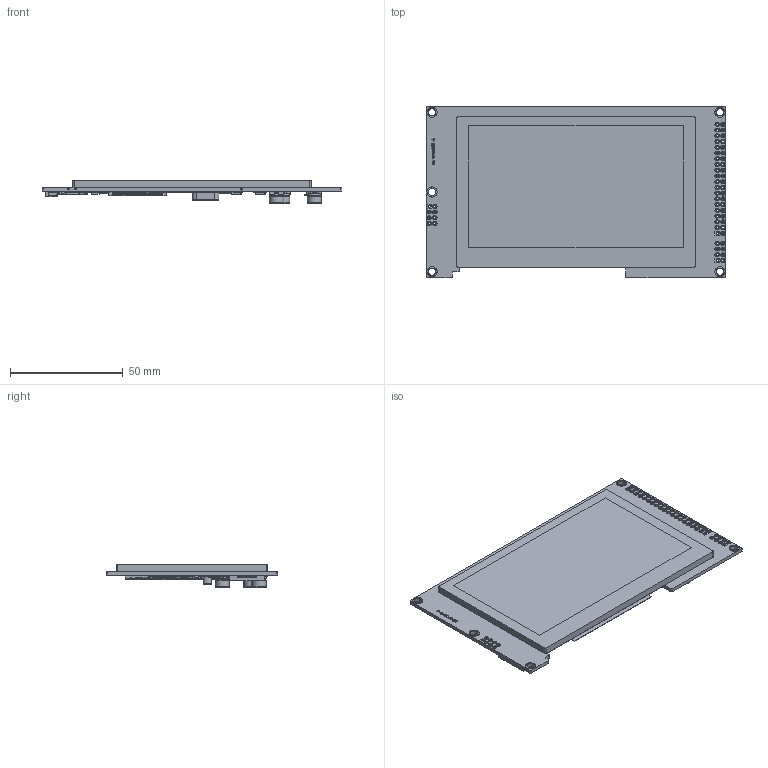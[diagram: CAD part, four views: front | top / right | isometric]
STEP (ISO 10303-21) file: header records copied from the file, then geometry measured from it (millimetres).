
FILE_DESCRIPTION(('HOOPS Exchange Step'),'2;1');
FILE_NAME('\\Server-1\e\公共文件夹\7.产品资料库\彩色-TFT\4.3寸\ER-TFTM043-4\3D\ER-TFTM043-4_3D.step','2021-01-28T09:47:05+08:00',('Administrator'),('Unknown organisation'),'HOOPS Exchange 2018.2','glovius.exe','Unknown authorisation');
FILE_SCHEMA( ('AUTOMOTIVE_DESIGN { 1 0 10303 214 1 1 1 1 }') );
Length unit declared in the file: millimetre
Products named in the file (13): 固态电容-1; FLASH_IC-1; 连接器_50-Pin-1; 连接器_50-Pin - 副本-1; SD卡座-1; 连接器_6-Pin-1; 主控IC_new-1; XPT2046-1; SO-14 (PIC16F684)-1-1; 晶振-1; 43-4-1; Default; ER-TFTM043-4
Assembly tree (15 placements, depth 3):
  ER-TFTM043-4
    Default
      固态电容-1  x3
      FLASH_IC-1  x2
      连接器_50-Pin-1
      连接器_50-Pin - 副本-1
      SD卡座-1
      连接器_6-Pin-1
      主控IC_new-1
      XPT2046-1
      SO-14 (PIC16F684)-1-1
      晶振-1
      43-4-1
Bounding box: 132.7 x 75.8 x 10.21 mm (x, y, z)
Volume: 39012 mm3; surface area: 36194.5 mm2
Topology: 242 solids, 245 shells, 9881 faces, 25419 edges, 16224 vertices
Faces by surface type: bspline 9881
Entity records: 929181 total; most frequent: CARTESIAN_POINT 610207, B_SPLINE_CURVE_WITH_KNOTS 66418, DEFINITIONAL_REPRESENTATION 49038, PCURVE 49038, ORIENTED_EDGE 49038, INTERSECTION_CURVE 24519, EDGE_CURVE 24519, VERTEX_POINT 15822
